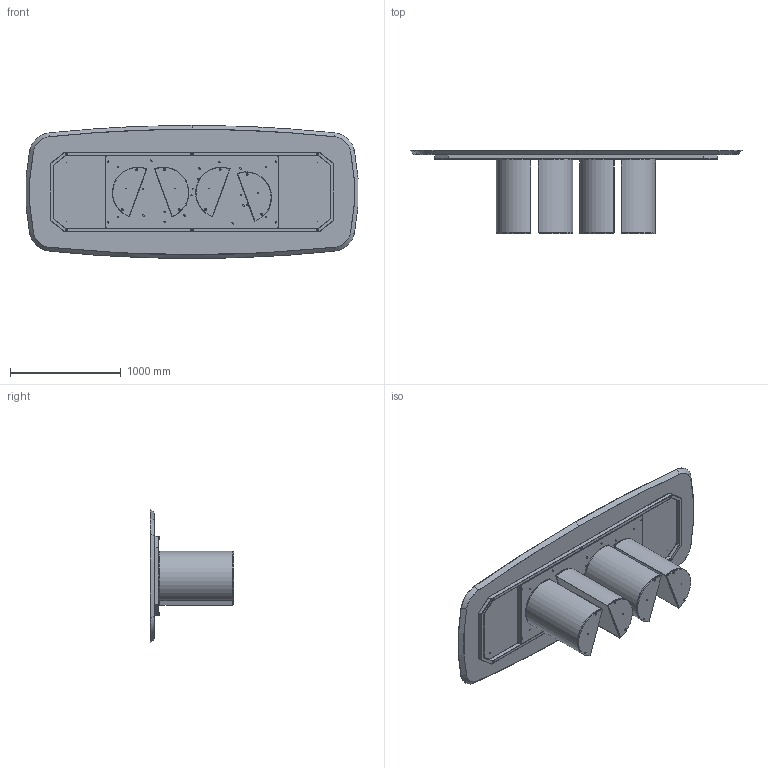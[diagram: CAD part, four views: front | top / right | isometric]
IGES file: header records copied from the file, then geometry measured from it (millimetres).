
Start section: SolidWorks IGES file using analytic representation for surfaces
Global section: file name: Y:\eforma\TECNICO\SOLIDWORKS\E-FORMA\1-TAVOLI\PLAI\02 parts\PL44W.IGS; native system: SolidWorks 2022; preprocessor: SolidWorks 2022; author: eforma.tech; date: 240807.155835; units: millimetre
Bounding box: 2991.72 x 752 x 1200 mm (x, y, z)
Volume: 140259241.9 mm3; surface area: 18591941.8 mm2
Topology: 59 solids, 59 shells, 1621 faces, 3714 edges, 2156 vertices
Faces by surface type: revolution 989, plane 632
